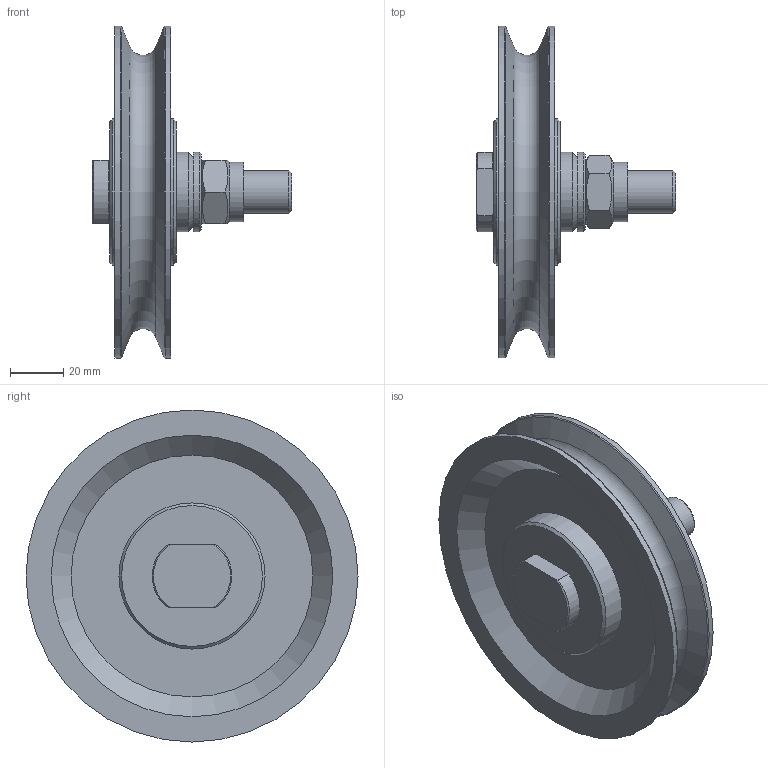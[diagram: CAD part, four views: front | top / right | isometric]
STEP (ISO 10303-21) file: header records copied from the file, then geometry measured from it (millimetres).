
FILE_DESCRIPTION(/* description */ ('Seilrolle ø125 feststehende Achse VA'),/* implementation_level */ '2;1');
FILE_NAME(/* name */ 'Z:\Workspace\03 Seilrollen\1.506 Seilrollen feststehende Achse Gleitlager\1.506.04 Seilrolle ø125 feststehende Achse GL VA\1.506.04 Seilrolle ø125 feststehende Achse VA.stp',/* time_stamp */ '2021-11-02T12:18:34+01:00',/* author */ ('cad-user'),/* organization */ (''),/* preprocessor_version */ 'ST-DEVELOPER v18',/* originating_system */ 'Autodesk Inventor 2020',/* authorisation */ '');
FILE_SCHEMA (('AUTOMOTIVE_DESIGN { 1 0 10303 214 3 1 1 }'));
Length unit declared in the file: millimetre
Products named in the file (8): 1.506.04 Seilrolle ø125 feststehende Achse VA; 1.501.04 Seilrolle ø125 VA Buchse komplett; 1.501.04 Seilrolle ø125 VA Buchse; 162025BP25; 1.506.03.02 Scheibe VA; 1.506.03.01 Schraube VA; DIN 985 - M16; DIN 125-1 - B 17
Assembly tree (7 placements, depth 3):
  1.506.04 Seilrolle ø125 feststehende Achse VA
    1.501.04 Seilrolle ø125 VA Buchse komplett
      1.501.04 Seilrolle ø125 VA Buchse
      162025BP25
    1.506.03.02 Scheibe VA
    1.506.03.01 Schraube VA
    DIN 985 - M16
    DIN 125-1 - B 17
Bounding box: 75 x 125 x 125 mm (x, y, z)
Volume: 165226.1 mm3; surface area: 56532.4 mm2
Topology: 6 solids, 6 shells, 65 faces, 159 edges, 111 vertices
Faces by surface type: plane 25, cone 21, cylinder 16, torus 3
Full cylindrical faces by diameter (mm): 13.835 x1, 16 x2, 17 x2, 20 x2, 22.5 x1, 30 x2, 55 x2, 125 x2
Entity records: 2288 total; most frequent: DIRECTION 393, CARTESIAN_POINT 390, ORIENTED_EDGE 318, AXIS2_PLACEMENT_3D 174, EDGE_CURVE 159, VERTEX_POINT 111, CIRCLE 94, EDGE_LOOP 80
